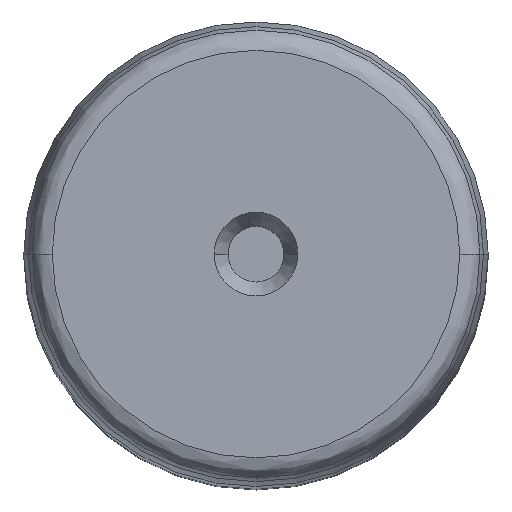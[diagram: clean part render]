
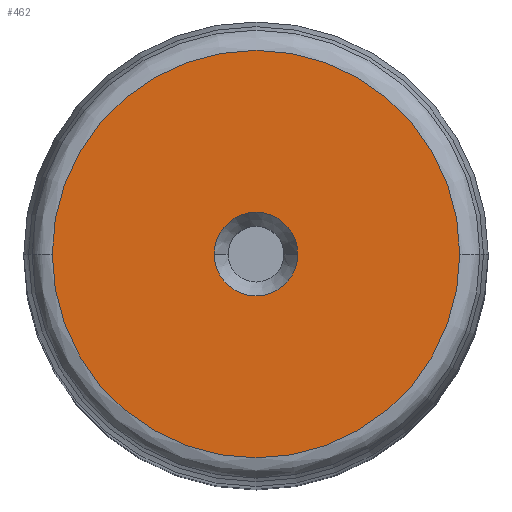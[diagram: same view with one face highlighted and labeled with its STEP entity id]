
A CAD part, top view. The second image highlights one B-rep face of the part: STEP entity #462.
In plain terms, the highlighted planar face has unit normal (0, 0, 1).
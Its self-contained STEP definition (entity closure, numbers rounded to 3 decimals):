
#97=VERTEX_POINT(' ',#98);
#98=CARTESIAN_POINT('',(-9.,0.,450.));
#99=VERTEX_POINT(' ',#100);
#100=CARTESIAN_POINT('',(9.,0.,450.));
#101=VERTEX_POINT(' ',#102);
#102=CARTESIAN_POINT('',(-43.868,0.,450.));
#103=VERTEX_POINT(' ',#104);
#104=CARTESIAN_POINT('',(43.868,0.,450.));
#180=CIRCLE('',#181,9.);
#181=AXIS2_PLACEMENT_3D('',#182,#183,#184);
#182=CARTESIAN_POINT('',(0.,0.,450.));
#183=DIRECTION('',(0.,0.,-1.));
#184=DIRECTION('',(0.,1.,0.));
#185=EDGE_CURVE(' ',#99,#97,#180,.T.);
#191=CIRCLE('',#192,9.);
#192=AXIS2_PLACEMENT_3D('',#193,#194,#195);
#193=CARTESIAN_POINT('',(0.,0.,450.));
#194=DIRECTION('',(0.,0.,-1.));
#195=DIRECTION('',(0.,-1.,0.));
#196=EDGE_CURVE(' ',#97,#99,#191,.T.);
#197=CIRCLE('',#198,43.868);
#198=AXIS2_PLACEMENT_3D('',#199,#200,#201);
#199=CARTESIAN_POINT('',(0.,0.,450.));
#200=DIRECTION('',(0.,0.,-1.));
#201=DIRECTION('',(0.,1.,0.));
#202=EDGE_CURVE(' ',#103,#101,#197,.T.);
#203=CIRCLE('',#204,43.868);
#204=AXIS2_PLACEMENT_3D('',#205,#206,#207);
#205=CARTESIAN_POINT('',(0.,0.,450.));
#206=DIRECTION('',(0.,0.,-1.));
#207=DIRECTION('',(0.,-1.,0.));
#208=EDGE_CURVE(' ',#101,#103,#203,.T.);
#449=ORIENTED_EDGE('',*,*,#202,.F.);
#450=ORIENTED_EDGE('',*,*,#208,.F.);
#451=EDGE_LOOP('',(#449,#450));
#452=FACE_OUTER_BOUND('',#451,.T.);
#453=ORIENTED_EDGE('',*,*,#196,.T.);
#454=ORIENTED_EDGE('',*,*,#185,.T.);
#455=EDGE_LOOP('',(#453,#454));
#456=FACE_BOUND('',#455,.T.);
#457=PLANE('',#458);
#458=AXIS2_PLACEMENT_3D('',#459,#460,#461);
#459=CARTESIAN_POINT('',(0.,0.,450.));
#460=DIRECTION('',(0.,0.,1.));
#461=DIRECTION('',(0.,1.,0.));
#462=ADVANCED_FACE('',(#452,#456),#457,.T.);
